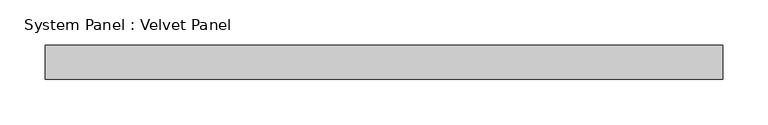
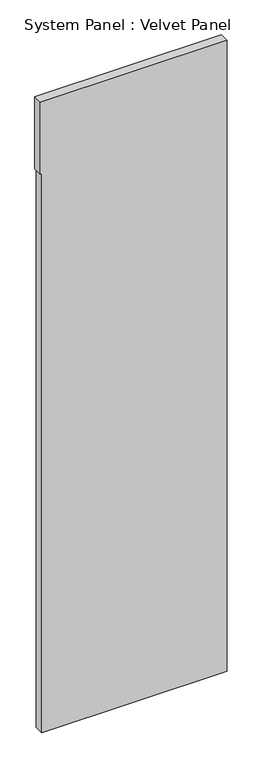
"""IFC4 building model written with IfcOpenShell, lengths in millimetres: plate geometry, System Panel : Velvet Panel."""

from ifc_helpers import new_model, si_unit, frame, origin, place, context, project, spatial, polyline, outline, extrude, source, transform, mapped, element, save


def system_panel_velvet_panel_be8211a6(model_context):
    return source(origin(), model_context, "Body", "SweptSolid", [
        extrude(outline(polyline([(0.0, -369.4515547), (0.0, 375.8015547), (2374.9, 375.8015547), (2679.7, 375.8015547), (2679.7, -375.8015547), (2374.9, -375.8015547), (2374.9, -369.4515547), (0.0, -369.4515547)])), frame((0.0, 0.0, 0.0), z_axis=(0.0, 1.0, 0.0), x_axis=(0.0, 0.0, 1.0)), (0.0, 0.0, 1.0), 38.1),
    ])


if __name__ == "__main__":
    model = new_model("IFC4")
    model_context = context("Model", 3, world=origin())
    ifc_project = project(units=[si_unit("LENGTHUNIT", "METRE", prefix="MILLI")], contexts=[model_context])
    site = spatial("IfcSite", under=ifc_project)
    building = spatial("IfcBuilding", under=site)
    placement = place(None, origin())
    system_panel_velvet_panel_shape = system_panel_velvet_panel_be8211a6(model_context)
    element("IfcPlate", 1, ObjectType="System Panel : Velvet Panel", at=placement, inside=building, context=model_context, shape_type="MappedRepresentation", body=[
        mapped(system_panel_velvet_panel_shape, transform((0.0, 0.0, 0.0), x_axis=(1.0, 0.0, 0.0), y_axis=(0.0, 1.0, 0.0), z_axis=(0.0, 0.0, 1.0))),
    ])
    save(model, "model.ifc")
